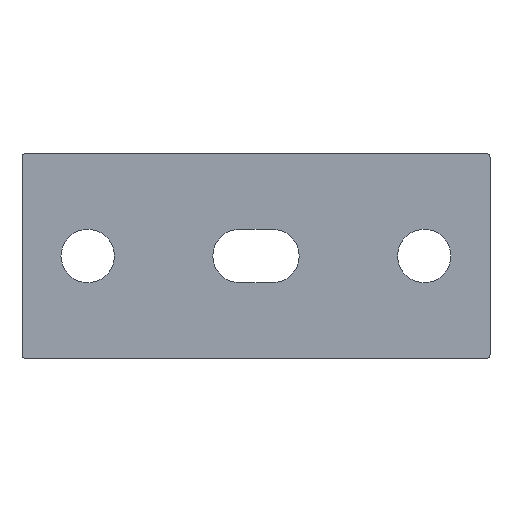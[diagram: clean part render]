
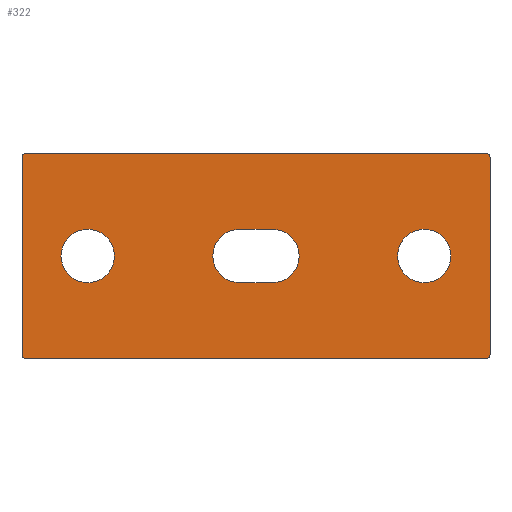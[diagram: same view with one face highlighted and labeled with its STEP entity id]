
A CAD part, front view. The second image highlights one B-rep face of the part: STEP entity #322.
In plain terms, the highlighted planar face has unit normal (0, -1, 0).
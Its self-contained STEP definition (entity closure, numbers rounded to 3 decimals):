
#1=CARTESIAN_POINT('',(0.,-5.,0.));
#2=DIRECTION('',(0.,-1.,0.));
#3=DIRECTION('',(1.,0.,0.));
#4=AXIS2_PLACEMENT_3D('',#1,#2,#3);
#6=CARTESIAN_POINT('',(0.,-5.,0.));
#7=DIRECTION('',(0.,-1.,0.));
#8=DIRECTION('',(-1.,0.,0.));
#9=AXIS2_PLACEMENT_3D('',#6,#7,#8);
#11=CARTESIAN_POINT('',(-82.,-5.,0.));
#12=DIRECTION('',(0.,-1.,0.));
#13=DIRECTION('',(1.,0.,0.));
#14=AXIS2_PLACEMENT_3D('',#11,#12,#13);
#16=CARTESIAN_POINT('',(-82.,-5.,0.));
#17=DIRECTION('',(0.,-1.,0.));
#18=DIRECTION('',(-1.,0.,0.));
#19=AXIS2_PLACEMENT_3D('',#16,#17,#18);
#21=CARTESIAN_POINT('',(-45.,-5.,0.));
#22=DIRECTION('',(0.,-1.,0.));
#23=DIRECTION('',(0.,0.,1.));
#24=AXIS2_PLACEMENT_3D('',#21,#22,#23);
#26=DIRECTION('',(1.,0.,0.));
#27=VECTOR('',#26,8.);
#28=CARTESIAN_POINT('',(-45.,-5.,-6.5));
#29=LINE('',#28,#27);
#30=CARTESIAN_POINT('',(-37.,-5.,0.));
#31=DIRECTION('',(0.,-1.,0.));
#32=DIRECTION('',(0.,0.,-1.));
#33=AXIS2_PLACEMENT_3D('',#30,#31,#32);
#35=DIRECTION('',(-1.,0.,0.));
#36=VECTOR('',#35,8.);
#37=CARTESIAN_POINT('',(-37.,-5.,6.5));
#38=LINE('',#37,#36);
#39=CARTESIAN_POINT('',(15.,-5.,-24.));
#40=DIRECTION('',(0.,-1.,0.));
#41=DIRECTION('',(0.,0.,-1.));
#42=AXIS2_PLACEMENT_3D('',#39,#40,#41);
#44=DIRECTION('',(-1.,0.,0.));
#45=VECTOR('',#44,112.);
#46=CARTESIAN_POINT('',(15.,-5.,-25.));
#47=LINE('',#46,#45);
#48=CARTESIAN_POINT('',(-97.,-5.,-24.));
#49=DIRECTION('',(0.,-1.,0.));
#50=DIRECTION('',(-1.,0.,0.));
#51=AXIS2_PLACEMENT_3D('',#48,#49,#50);
#53=DIRECTION('',(0.,0.,1.));
#54=VECTOR('',#53,48.);
#55=CARTESIAN_POINT('',(-98.,-5.,-24.));
#56=LINE('',#55,#54);
#57=CARTESIAN_POINT('',(-97.,-5.,24.));
#58=DIRECTION('',(0.,-1.,0.));
#59=DIRECTION('',(0.,0.,1.));
#60=AXIS2_PLACEMENT_3D('',#57,#58,#59);
#62=DIRECTION('',(1.,0.,0.));
#63=VECTOR('',#62,112.);
#64=CARTESIAN_POINT('',(-97.,-5.,25.));
#65=LINE('',#64,#63);
#66=CARTESIAN_POINT('',(15.,-5.,24.));
#67=DIRECTION('',(0.,-1.,0.));
#68=DIRECTION('',(1.,0.,0.));
#69=AXIS2_PLACEMENT_3D('',#66,#67,#68);
#71=DIRECTION('',(0.,0.,-1.));
#72=VECTOR('',#71,48.);
#73=CARTESIAN_POINT('',(16.,-5.,24.));
#74=LINE('',#73,#72);
#213=CARTESIAN_POINT('',(6.5,-5.,0.));
#214=CARTESIAN_POINT('',(-6.5,-5.,0.));
#215=VERTEX_POINT('',#213);
#216=VERTEX_POINT('',#214);
#217=CARTESIAN_POINT('',(-75.5,-5.,0.));
#218=CARTESIAN_POINT('',(-88.5,-5.,0.));
#219=VERTEX_POINT('',#217);
#220=VERTEX_POINT('',#218);
#221=CARTESIAN_POINT('',(-45.,-5.,6.5));
#222=CARTESIAN_POINT('',(-45.,-5.,-6.5));
#223=VERTEX_POINT('',#221);
#224=VERTEX_POINT('',#222);
#225=CARTESIAN_POINT('',(-37.,-5.,-6.5));
#226=VERTEX_POINT('',#225);
#227=CARTESIAN_POINT('',(-37.,-5.,6.5));
#228=VERTEX_POINT('',#227);
#245=CARTESIAN_POINT('',(15.,-5.,-25.));
#246=CARTESIAN_POINT('',(16.,-5.,-24.));
#247=VERTEX_POINT('',#245);
#248=VERTEX_POINT('',#246);
#253=CARTESIAN_POINT('',(16.,-5.,24.));
#254=CARTESIAN_POINT('',(15.,-5.,25.));
#255=VERTEX_POINT('',#253);
#256=VERTEX_POINT('',#254);
#261=CARTESIAN_POINT('',(-97.,-5.,25.));
#262=CARTESIAN_POINT('',(-98.,-5.,24.));
#263=VERTEX_POINT('',#261);
#264=VERTEX_POINT('',#262);
#269=CARTESIAN_POINT('',(-98.,-5.,-24.));
#270=CARTESIAN_POINT('',(-97.,-5.,-25.));
#271=VERTEX_POINT('',#269);
#272=VERTEX_POINT('',#270);
#277=CARTESIAN_POINT('',(0.,-5.,0.));
#278=DIRECTION('',(0.,1.,0.));
#279=DIRECTION('',(1.,0.,0.));
#280=AXIS2_PLACEMENT_3D('',#277,#278,#279);
#281=PLANE('',#280);
#283=ORIENTED_EDGE('',*,*,#282,.F.);
#285=ORIENTED_EDGE('',*,*,#284,.T.);
#287=ORIENTED_EDGE('',*,*,#286,.F.);
#289=ORIENTED_EDGE('',*,*,#288,.T.);
#291=ORIENTED_EDGE('',*,*,#290,.F.);
#293=ORIENTED_EDGE('',*,*,#292,.T.);
#295=ORIENTED_EDGE('',*,*,#294,.F.);
#297=ORIENTED_EDGE('',*,*,#296,.T.);
#298=EDGE_LOOP('',(#283,#285,#287,#289,#291,#293,#295,#297));
#299=FACE_OUTER_BOUND('',#298,.F.);
#301=ORIENTED_EDGE('',*,*,#300,.T.);
#303=ORIENTED_EDGE('',*,*,#302,.T.);
#304=EDGE_LOOP('',(#301,#303));
#305=FACE_BOUND('',#304,.F.);
#307=ORIENTED_EDGE('',*,*,#306,.T.);
#309=ORIENTED_EDGE('',*,*,#308,.T.);
#310=EDGE_LOOP('',(#307,#309));
#311=FACE_BOUND('',#310,.F.);
#313=ORIENTED_EDGE('',*,*,#312,.T.);
#315=ORIENTED_EDGE('',*,*,#314,.T.);
#317=ORIENTED_EDGE('',*,*,#316,.T.);
#319=ORIENTED_EDGE('',*,*,#318,.T.);
#320=EDGE_LOOP('',(#313,#315,#317,#319));
#321=FACE_BOUND('',#320,.F.);
#322=ADVANCED_FACE('',(#299,#305,#311,#321),#281,.F.);
#5=CIRCLE('',#4,6.5);
#10=CIRCLE('',#9,6.5);
#15=CIRCLE('',#14,6.5);
#20=CIRCLE('',#19,6.5);
#25=CIRCLE('',#24,6.5);
#34=CIRCLE('',#33,6.5);
#43=CIRCLE('',#42,1.);
#52=CIRCLE('',#51,1.);
#61=CIRCLE('',#60,1.);
#70=CIRCLE('',#69,1.);
#282=EDGE_CURVE('',#247,#248,#43,.T.);
#284=EDGE_CURVE('',#247,#272,#47,.T.);
#286=EDGE_CURVE('',#271,#272,#52,.T.);
#288=EDGE_CURVE('',#271,#264,#56,.T.);
#290=EDGE_CURVE('',#263,#264,#61,.T.);
#292=EDGE_CURVE('',#263,#256,#65,.T.);
#294=EDGE_CURVE('',#255,#256,#70,.T.);
#296=EDGE_CURVE('',#255,#248,#74,.T.);
#300=EDGE_CURVE('',#215,#216,#5,.T.);
#302=EDGE_CURVE('',#216,#215,#10,.T.);
#306=EDGE_CURVE('',#219,#220,#15,.T.);
#308=EDGE_CURVE('',#220,#219,#20,.T.);
#312=EDGE_CURVE('',#223,#224,#25,.T.);
#314=EDGE_CURVE('',#224,#226,#29,.T.);
#316=EDGE_CURVE('',#226,#228,#34,.T.);
#318=EDGE_CURVE('',#228,#223,#38,.T.);
